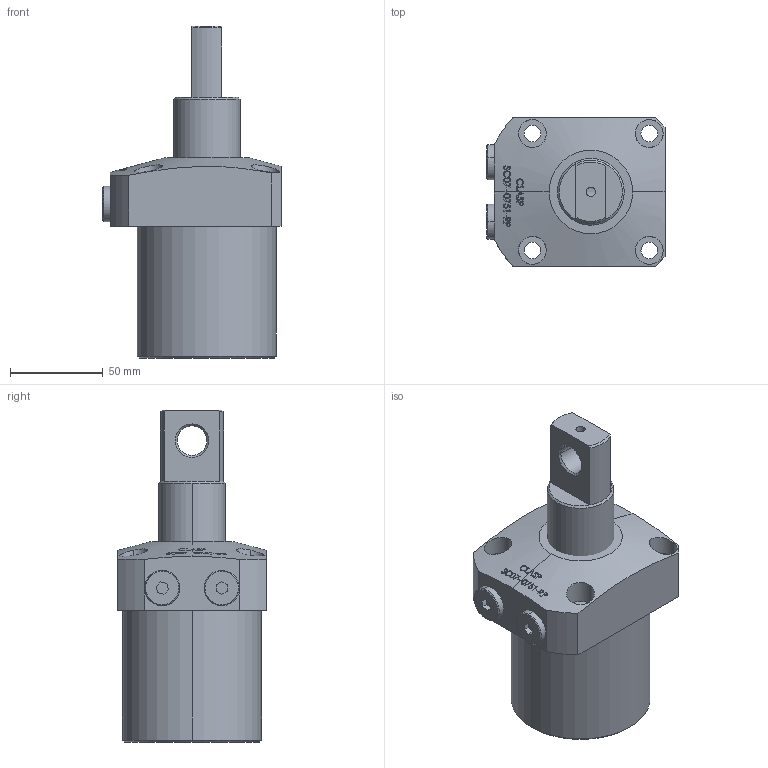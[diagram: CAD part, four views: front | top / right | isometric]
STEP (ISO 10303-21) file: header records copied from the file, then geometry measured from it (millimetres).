
FILE_DESCRIPTION (( 'STEP AP203' ), '1' );
FILE_NAME ('SC07-0751-RP.STEP', '2022-07-08T16:58:03', ( '' ), ( '' ), 'SwSTEP 2.0', 'SolidWorks 2017', '' );
FILE_SCHEMA (( 'CONFIG_CONTROL_DESIGN' ));
Length unit declared in the file: millimetre
Products named in the file (4): SC-07-0751-RP BODY; SC-07-0751-RP-Piston; SC-07-0751-RP-05 plug; SC07-0751-RP
Assembly tree (4 placements, depth 2):
  SC07-0751-RP
    SC-07-0751-RP BODY
    SC-07-0751-RP-Piston
    SC-07-0751-RP-05 plug  x2
Bounding box: 96 x 80 x 179 mm (x, y, z)
Volume: 606551.5 mm3; surface area: 60815.8 mm2
Topology: 4 solids, 4 shells, 319 faces, 799 edges, 526 vertices
Faces by surface type: plane 152, bspline 91, cylinder 50, cone 26
Entity records: 14865 total; most frequent: CARTESIAN_POINT 7837, ORIENTED_EDGE 1534, DIRECTION 1015, EDGE_CURVE 767, VERTEX_POINT 506, LINE 367, VECTOR 367, EDGE_LOOP 353
